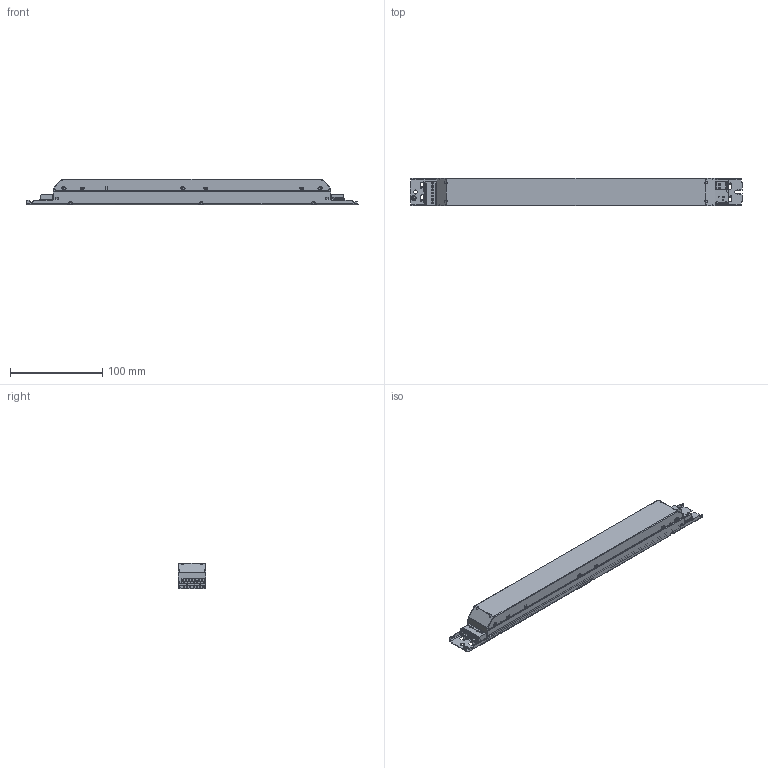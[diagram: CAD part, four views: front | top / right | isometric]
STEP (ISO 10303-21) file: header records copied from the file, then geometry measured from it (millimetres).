
FILE_DESCRIPTION((''),'2;1');
FILE_NAME('15014814Z_DATAMEC_360X30X28_72A','2022-02-02T15:43:38',('Juergen.Hrach'),(''),'CREO PARAMETRIC BY PTC INC, 2021184','CREO PARAMETRIC BY PTC INC, 2021184','');
FILE_SCHEMA(('CONFIG_CONTROL_DESIGN'));
Products named in the file (1): 15014814Z_DATAMEC_360X30X28_72A
Bounding box: 360 x 30 x 28 mm (x, y, z)
Volume: 251774 mm3; surface area: 54387.3 mm2
Topology: 2 solids, 12 shells, 1663 faces, 4337 edges, 2709 vertices
Faces by surface type: plane 845, cylinder 570, bspline 162, cone 38, sphere 36, torus 12
Entity records: 58578 total; most frequent: CARTESIAN_POINT 18648, ORIENTED_EDGE 8642, DIRECTION 7916, EDGE_CURVE 4321, VERTEX_POINT 2709, AXIS2_PLACEMENT_3D 2673, VECTOR 2570, LINE 2570
